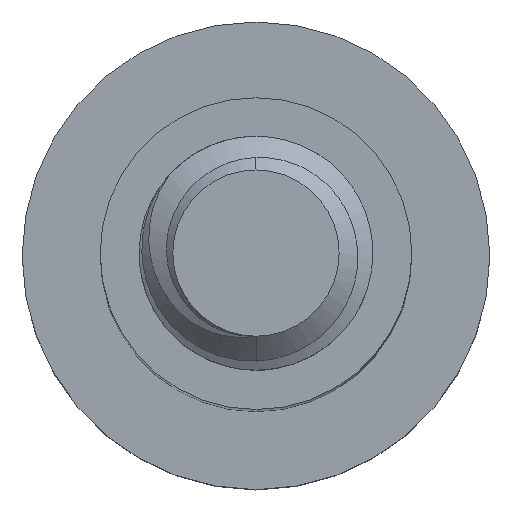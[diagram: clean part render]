
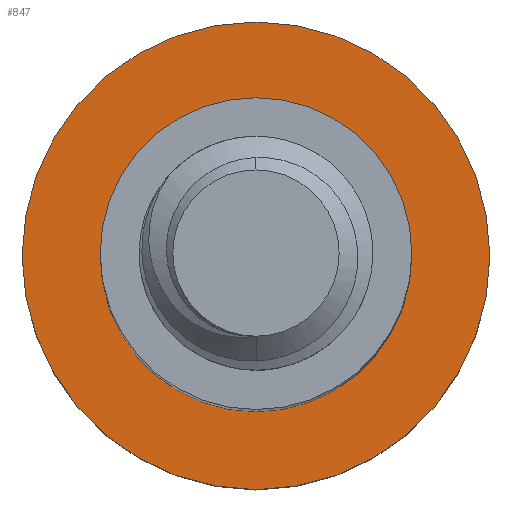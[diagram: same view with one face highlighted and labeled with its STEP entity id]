
A CAD part, top view. The second image highlights one B-rep face of the part: STEP entity #847.
In plain terms, the highlighted planar face has unit normal (0, 0, 1).
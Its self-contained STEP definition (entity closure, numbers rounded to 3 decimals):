
#116 = EDGE_CURVE ( 'NONE', #1866, #1904, #829, .T. ) ;
#128 = CIRCLE ( 'NONE', #794, 3. ) ;
#150 = DIRECTION ( 'NONE',  ( -1., 0., 0. ) ) ;
#151 = CARTESIAN_POINT ( 'NONE',  ( 0., 0., -16. ) ) ;
#181 = ORIENTED_EDGE ( 'NONE', *, *, #307, .T. ) ;
#244 = EDGE_CURVE ( 'NONE', #1904, #1866, #128, .T. ) ;
#263 = FACE_OUTER_BOUND ( 'NONE', #2010, .T. ) ;
#291 = CARTESIAN_POINT ( 'NONE',  ( -3., 0., -16. ) ) ;
#307 = EDGE_CURVE ( 'NONE', #1557, #426, #1723, .T. ) ;
#321 = CARTESIAN_POINT ( 'NONE',  ( 0., 0., -16. ) ) ;
#326 = CARTESIAN_POINT ( 'NONE',  ( 3., 0., -16. ) ) ;
#346 = DIRECTION ( 'NONE',  ( -1., 0., 0. ) ) ;
#426 = VERTEX_POINT ( 'NONE', #1196 ) ;
#427 = FACE_BOUND ( 'NONE', #1170, .T. ) ;
#586 = PLANE ( 'NONE',  #1468 ) ;
#690 = CARTESIAN_POINT ( 'NONE',  ( 0., 0., -16. ) ) ;
#794 = AXIS2_PLACEMENT_3D ( 'NONE', #1305, #1325, #2000 ) ;
#829 = CIRCLE ( 'NONE', #1909, 3. ) ;
#847 = ADVANCED_FACE ( 'NONE', ( #427, #263 ), #586, .F. ) ;
#1015 = DIRECTION ( 'NONE',  ( 0., 0., -1. ) ) ;
#1170 = EDGE_LOOP ( 'NONE', ( #181, #2041 ) ) ;
#1196 = CARTESIAN_POINT ( 'NONE',  ( 2., 0., -16. ) ) ;
#1198 = ORIENTED_EDGE ( 'NONE', *, *, #116, .F. ) ;
#1205 = DIRECTION ( 'NONE',  ( 0., 0., -1. ) ) ;
#1270 = DIRECTION ( 'NONE',  ( 0., 0., -1. ) ) ;
#1280 = DIRECTION ( 'NONE',  ( -1., 0., 0. ) ) ;
#1305 = CARTESIAN_POINT ( 'NONE',  ( 0., 0., -16. ) ) ;
#1321 = CARTESIAN_POINT ( 'NONE',  ( -2., 0., -16. ) ) ;
#1323 = CIRCLE ( 'NONE', #2137, 2. ) ;
#1325 = DIRECTION ( 'NONE',  ( 0., 0., -1. ) ) ;
#1461 = EDGE_CURVE ( 'NONE', #426, #1557, #1323, .T. ) ;
#1468 = AXIS2_PLACEMENT_3D ( 'NONE', #1786, #1270, #1280 ) ;
#1505 = DIRECTION ( 'NONE',  ( -1., 0., 0. ) ) ;
#1557 = VERTEX_POINT ( 'NONE', #1321 ) ;
#1703 = ORIENTED_EDGE ( 'NONE', *, *, #244, .F. ) ;
#1723 = CIRCLE ( 'NONE', #2231, 2. ) ;
#1786 = CARTESIAN_POINT ( 'NONE',  ( 0., 0., -16. ) ) ;
#1866 = VERTEX_POINT ( 'NONE', #326 ) ;
#1904 = VERTEX_POINT ( 'NONE', #291 ) ;
#1909 = AXIS2_PLACEMENT_3D ( 'NONE', #151, #1205, #346 ) ;
#2000 = DIRECTION ( 'NONE',  ( -1., 0., 0. ) ) ;
#2010 = EDGE_LOOP ( 'NONE', ( #1198, #1703 ) ) ;
#2041 = ORIENTED_EDGE ( 'NONE', *, *, #1461, .T. ) ;
#2137 = AXIS2_PLACEMENT_3D ( 'NONE', #690, #2214, #1505 ) ;
#2214 = DIRECTION ( 'NONE',  ( 0., 0., -1. ) ) ;
#2231 = AXIS2_PLACEMENT_3D ( 'NONE', #321, #1015, #150 ) ;
